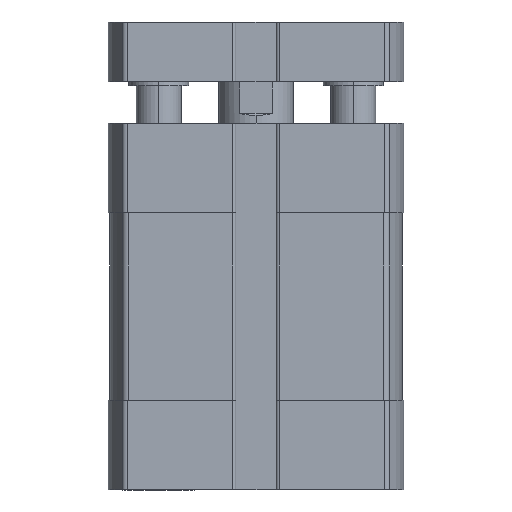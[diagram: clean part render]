
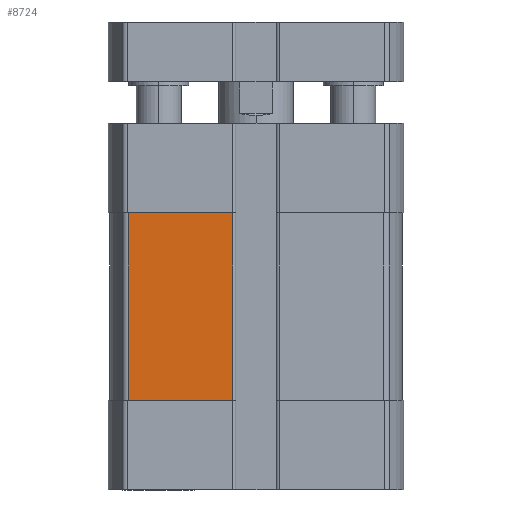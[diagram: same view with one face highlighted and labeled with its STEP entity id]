
A CAD part, front view. The second image highlights one B-rep face of the part: STEP entity #8724.
In plain terms, the highlighted planar face has unit normal (0, -1, 0) as drawn and (-1, 0, 0) by its records, which use the part's own axes.
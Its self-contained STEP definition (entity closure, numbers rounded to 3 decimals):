
#188 = ORIENTED_EDGE ( 'NONE', *, *, #3746, .T. ) ;
#480 = VERTEX_POINT ( 'NONE', #17157 ) ;
#597 = CARTESIAN_POINT ( 'NONE',  ( -19.5, 3.1, -37. ) ) ;
#926 = EDGE_LOOP ( 'NONE', ( #188, #3656, #7752, #8876 ) ) ;
#1268 = EDGE_CURVE ( 'NONE', #7858, #7671, #14821, .T. ) ;
#2115 = CARTESIAN_POINT ( 'NONE',  ( -19.5, 0., -12. ) ) ;
#2806 = LINE ( 'NONE', #17062, #17849 ) ;
#2836 = CARTESIAN_POINT ( 'NONE',  ( -19.5, 3.1, -12. ) ) ;
#2971 = VECTOR ( 'NONE', #7986, 1000. ) ;
#3643 = DIRECTION ( 'NONE',  ( 0., 1., 0. ) ) ;
#3656 = ORIENTED_EDGE ( 'NONE', *, *, #1268, .T. ) ;
#3746 = EDGE_CURVE ( 'NONE', #480, #7858, #2806, .T. ) ;
#5030 = LINE ( 'NONE', #2115, #9848 ) ;
#5195 = CARTESIAN_POINT ( 'NONE',  ( -19.5, 17.091, -37. ) ) ;
#6074 = DIRECTION ( 'NONE',  ( -1., 0., 0. ) ) ;
#7671 = VERTEX_POINT ( 'NONE', #2836 ) ;
#7726 = CARTESIAN_POINT ( 'NONE',  ( -19.5, 3.1, -37. ) ) ;
#7752 = ORIENTED_EDGE ( 'NONE', *, *, #8362, .T. ) ;
#7858 = VERTEX_POINT ( 'NONE', #7726 ) ;
#7981 = CARTESIAN_POINT ( 'NONE',  ( -19.5, 17.091, -12. ) ) ;
#7986 = DIRECTION ( 'NONE',  ( 0., 0., 1. ) ) ;
#8282 = DIRECTION ( 'NONE',  ( 0., -1., 0. ) ) ;
#8305 = VERTEX_POINT ( 'NONE', #7981 ) ;
#8362 = EDGE_CURVE ( 'NONE', #7671, #8305, #5030, .T. ) ;
#8724 = ADVANCED_FACE ( 'NONE', ( #17188 ), #8992, .T. ) ;
#8876 = ORIENTED_EDGE ( 'NONE', *, *, #14550, .T. ) ;
#8992 = PLANE ( 'NONE',  #10080 ) ;
#9848 = VECTOR ( 'NONE', #3643, 1000. ) ;
#10080 = AXIS2_PLACEMENT_3D ( 'NONE', #17772, #6074, #16368 ) ;
#14550 = EDGE_CURVE ( 'NONE', #8305, #480, #17811, .T. ) ;
#14821 = LINE ( 'NONE', #597, #2971 ) ;
#15321 = VECTOR ( 'NONE', #15512, 1000. ) ;
#15512 = DIRECTION ( 'NONE',  ( 0., 0., -1. ) ) ;
#16368 = DIRECTION ( 'NONE',  ( 0., 0., 1. ) ) ;
#17062 = CARTESIAN_POINT ( 'NONE',  ( -19.5, 17.091, -37. ) ) ;
#17157 = CARTESIAN_POINT ( 'NONE',  ( -19.5, 17.091, -37. ) ) ;
#17188 = FACE_OUTER_BOUND ( 'NONE', #926, .T. ) ;
#17772 = CARTESIAN_POINT ( 'NONE',  ( -19.5, 17.091, -37. ) ) ;
#17811 = LINE ( 'NONE', #5195, #15321 ) ;
#17849 = VECTOR ( 'NONE', #8282, 1000. ) ;
